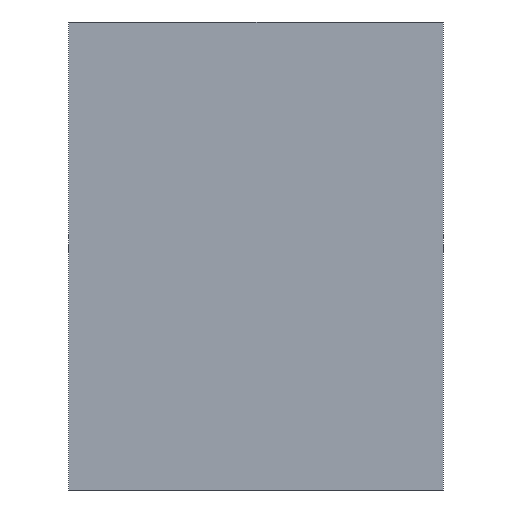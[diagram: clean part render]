
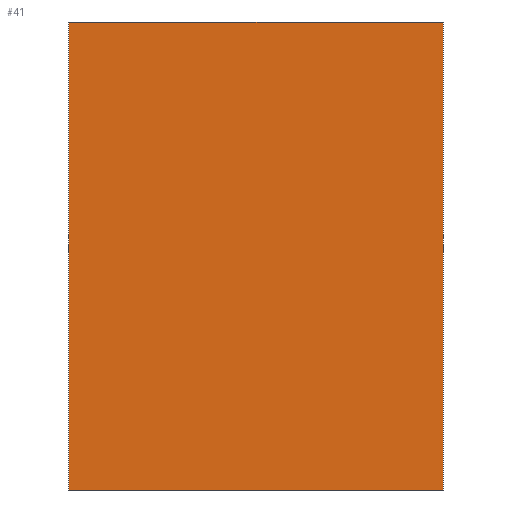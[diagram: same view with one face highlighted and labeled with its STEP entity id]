
A CAD part, left-side view. The second image highlights one B-rep face of the part: STEP entity #41.
In plain terms, the highlighted planar face has unit normal (-1, 0, 0).
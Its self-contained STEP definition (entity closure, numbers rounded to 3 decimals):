
#41=ADVANCED_FACE('',(#53),#357,.T.);
#53=FACE_OUTER_BOUND('',#65,.T.);
#65=EDGE_LOOP('',(#95,#96,#97,#98));
#95=ORIENTED_EDGE('',*,*,#251,.T.);
#96=ORIENTED_EDGE('',*,*,#252,.T.);
#97=ORIENTED_EDGE('',*,*,#253,.T.);
#98=ORIENTED_EDGE('',*,*,#254,.T.);
#143=PCURVE('',#357,#191);
#144=PCURVE('',#357,#192);
#145=PCURVE('',#357,#193);
#146=PCURVE('',#357,#194);
#150=PCURVE('',#358,#198);
#156=PCURVE('',#360,#204);
#162=PCURVE('',#361,#210);
#163=PCURVE('',#362,#211);
#191=DEFINITIONAL_REPRESENTATION('',(#300),#586);
#192=DEFINITIONAL_REPRESENTATION('',(#302),#586);
#193=DEFINITIONAL_REPRESENTATION('',(#304),#586);
#194=DEFINITIONAL_REPRESENTATION('',(#306),#586);
#198=DEFINITIONAL_REPRESENTATION('',(#313),#586);
#204=DEFINITIONAL_REPRESENTATION('',(#323),#586);
#210=DEFINITIONAL_REPRESENTATION('',(#330),#586);
#211=DEFINITIONAL_REPRESENTATION('',(#331),#586);
#227=SURFACE_CURVE('',#299,(#143,#162),.PCURVE_S1.);
#228=SURFACE_CURVE('',#301,(#144,#150),.PCURVE_S1.);
#229=SURFACE_CURVE('',#303,(#145,#163),.PCURVE_S1.);
#230=SURFACE_CURVE('',#305,(#146,#156),.PCURVE_S1.);
#251=EDGE_CURVE('',#343,#344,#227,.T.);
#252=EDGE_CURVE('',#344,#345,#228,.T.);
#253=EDGE_CURVE('',#345,#346,#229,.T.);
#254=EDGE_CURVE('',#346,#343,#230,.T.);
#299=B_SPLINE_CURVE_WITH_KNOTS('',1,(#513,#514),.UNSPECIFIED.,.F.,.F.,(2,
2),(-200.,-150.),.UNSPECIFIED.);
#300=B_SPLINE_CURVE_WITH_KNOTS('',1,(#515,#516),.UNSPECIFIED.,.F.,.F.,(2,
2),(-200.,-150.),.UNSPECIFIED.);
#301=B_SPLINE_CURVE_WITH_KNOTS('',1,(#517,#518),.UNSPECIFIED.,.F.,.F.,(2,
2),(0.,400.),.UNSPECIFIED.);
#302=B_SPLINE_CURVE_WITH_KNOTS('',1,(#519,#520),.UNSPECIFIED.,.F.,.F.,(2,
2),(0.,400.),.UNSPECIFIED.);
#303=B_SPLINE_CURVE_WITH_KNOTS('',1,(#521,#522),.UNSPECIFIED.,.F.,.F.,(2,
2),(150.,200.),.UNSPECIFIED.);
#304=B_SPLINE_CURVE_WITH_KNOTS('',1,(#523,#524),.UNSPECIFIED.,.F.,.F.,(2,
2),(150.,200.),.UNSPECIFIED.);
#305=B_SPLINE_CURVE_WITH_KNOTS('',1,(#525,#526),.UNSPECIFIED.,.F.,.F.,(2,
2),(-400.,0.),.UNSPECIFIED.);
#306=B_SPLINE_CURVE_WITH_KNOTS('',1,(#527,#528),.UNSPECIFIED.,.F.,.F.,(2,
2),(-400.,0.),.UNSPECIFIED.);
#313=B_SPLINE_CURVE_WITH_KNOTS('',1,(#541,#542),.UNSPECIFIED.,.F.,.F.,(2,
2),(0.,400.),.UNSPECIFIED.);
#323=B_SPLINE_CURVE_WITH_KNOTS('',1,(#561,#562),.UNSPECIFIED.,.F.,.F.,(2,
2),(-400.,0.),.UNSPECIFIED.);
#330=B_SPLINE_CURVE_WITH_KNOTS('',1,(#575,#576),.UNSPECIFIED.,.F.,.F.,(2,
2),(-200.,-150.),.UNSPECIFIED.);
#331=B_SPLINE_CURVE_WITH_KNOTS('',1,(#577,#578),.UNSPECIFIED.,.F.,.F.,(2,
2),(150.,200.),.UNSPECIFIED.);
#343=VERTEX_POINT('',#505);
#344=VERTEX_POINT('',#506);
#345=VERTEX_POINT('',#507);
#346=VERTEX_POINT('',#508);
#357=PLANE('',#389);
#358=PLANE('',#390);
#360=PLANE('',#392);
#361=PLANE('',#393);
#362=PLANE('',#394);
#389=AXIS2_PLACEMENT_3D('',#499,#404,$);
#390=AXIS2_PLACEMENT_3D('',#500,#405,$);
#392=AXIS2_PLACEMENT_3D('',#502,#407,$);
#393=AXIS2_PLACEMENT_3D('',#503,#408,$);
#394=AXIS2_PLACEMENT_3D('',#504,#409,$);
#404=DIRECTION('',(-1.,0.,0.));
#405=DIRECTION('',(0.,0.,1.));
#407=DIRECTION('',(0.,0.,-1.));
#408=DIRECTION('',(0.,-1.,0.));
#409=DIRECTION('',(0.,1.,0.));
#499=CARTESIAN_POINT('',(-850.,275.,40.));
#500=CARTESIAN_POINT('',(-850.,275.,140.));
#502=CARTESIAN_POINT('',(-810.,275.,40.));
#503=CARTESIAN_POINT('',(-810.,275.,40.));
#504=CARTESIAN_POINT('',(-810.,355.,40.));
#505=CARTESIAN_POINT('',(-850.,275.,40.));
#506=CARTESIAN_POINT('',(-850.,275.,140.));
#507=CARTESIAN_POINT('',(-850.,355.,140.));
#508=CARTESIAN_POINT('',(-850.,355.,40.));
#513=CARTESIAN_POINT('',(-850.,275.,40.));
#514=CARTESIAN_POINT('',(-850.,275.,140.));
#515=CARTESIAN_POINT('',(-200.,0.));
#516=CARTESIAN_POINT('',(-150.,0.));
#517=CARTESIAN_POINT('',(-850.,275.,140.));
#518=CARTESIAN_POINT('',(-850.,355.,140.));
#519=CARTESIAN_POINT('',(-150.,0.));
#520=CARTESIAN_POINT('',(-150.,400.));
#521=CARTESIAN_POINT('',(-850.,355.,140.));
#522=CARTESIAN_POINT('',(-850.,355.,40.));
#523=CARTESIAN_POINT('',(-150.,400.));
#524=CARTESIAN_POINT('',(-200.,400.));
#525=CARTESIAN_POINT('',(-850.,355.,40.));
#526=CARTESIAN_POINT('',(-850.,275.,40.));
#527=CARTESIAN_POINT('',(-200.,400.));
#528=CARTESIAN_POINT('',(-200.,0.));
#541=CARTESIAN_POINT('',(-150.,0.));
#542=CARTESIAN_POINT('',(-150.,400.));
#561=CARTESIAN_POINT('',(0.,400.));
#562=CARTESIAN_POINT('',(0.,0.));
#575=CARTESIAN_POINT('',(0.,0.));
#576=CARTESIAN_POINT('',(40.,0.));
#577=CARTESIAN_POINT('',(0.,40.));
#578=CARTESIAN_POINT('',(0.,0.));
#586=(
GEOMETRIC_REPRESENTATION_CONTEXT(2)
PARAMETRIC_REPRESENTATION_CONTEXT()
REPRESENTATION_CONTEXT('pspace','')
);
